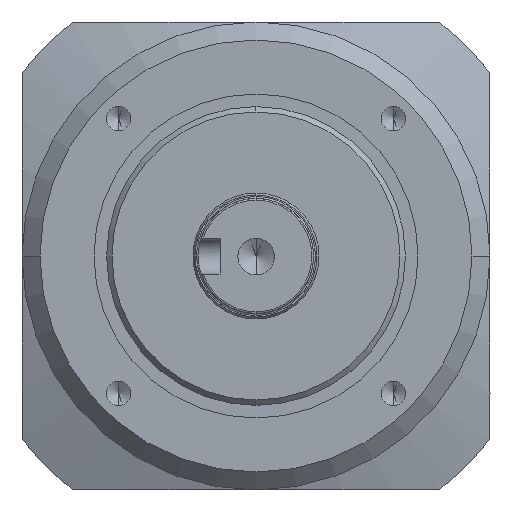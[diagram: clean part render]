
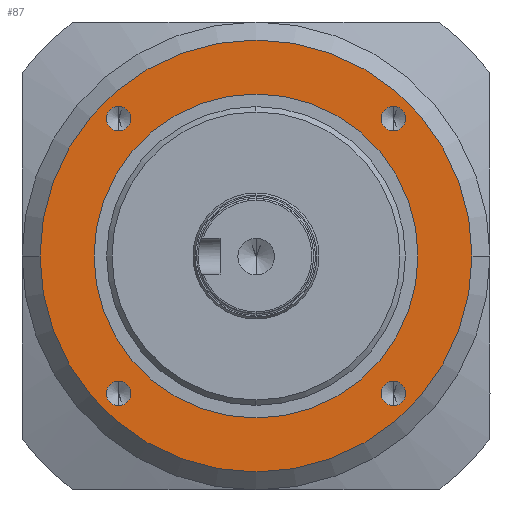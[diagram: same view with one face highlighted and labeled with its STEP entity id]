
A CAD part, left-side view. The second image highlights one B-rep face of the part: STEP entity #87.
In plain terms, the highlighted planar face has unit normal (-1, 0, 0).
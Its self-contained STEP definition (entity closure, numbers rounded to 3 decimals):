
#65 = EDGE_CURVE ( 'NONE', #2974, #1340, #2444, .T. ) ;
#87 = ADVANCED_FACE ( 'NONE', ( #2748, #1677, #623, #2103, #1431, #768 ), #204, .F. ) ;
#159 = CIRCLE ( 'NONE', #2063, 60. ) ;
#182 = VERTEX_POINT ( 'NONE', #769 ) ;
#193 = DIRECTION ( 'NONE',  ( 0., 0., 1. ) ) ;
#202 = DIRECTION ( 'NONE',  ( -1., 0., 0. ) ) ;
#204 = PLANE ( 'NONE',  #1830 ) ;
#278 = CARTESIAN_POINT ( 'NONE',  ( 44., -38.184, -38.184 ) ) ;
#280 = VERTEX_POINT ( 'NONE', #2111 ) ;
#327 = EDGE_LOOP ( 'NONE', ( #2601, #518 ) ) ;
#336 = CARTESIAN_POINT ( 'NONE',  ( 44., 0., 0. ) ) ;
#343 = EDGE_CURVE ( 'NONE', #2943, #2110, #2744, .T. ) ;
#356 = DIRECTION ( 'NONE',  ( 0., 0., 1. ) ) ;
#374 = CIRCLE ( 'NONE', #2959, 3.4 ) ;
#378 = CIRCLE ( 'NONE', #2246, 60. ) ;
#435 = EDGE_CURVE ( 'NONE', #1610, #1754, #1389, .T. ) ;
#446 = DIRECTION ( 'NONE',  ( -1., 0., 0. ) ) ;
#462 = CIRCLE ( 'NONE', #2449, 45. ) ;
#495 = CIRCLE ( 'NONE', #2487, 3.4 ) ;
#496 = AXIS2_PLACEMENT_3D ( 'NONE', #2889, #202, #3156 ) ;
#506 = VERTEX_POINT ( 'NONE', #2445 ) ;
#518 = ORIENTED_EDGE ( 'NONE', *, *, #1696, .T. ) ;
#523 = DIRECTION ( 'NONE',  ( -1., 0., 0. ) ) ;
#578 = CIRCLE ( 'NONE', #711, 3.4 ) ;
#591 = VERTEX_POINT ( 'NONE', #1493 ) ;
#601 = CARTESIAN_POINT ( 'NONE',  ( 44., -38.184, 38.184 ) ) ;
#623 = FACE_BOUND ( 'NONE', #1605, .T. ) ;
#648 = ORIENTED_EDGE ( 'NONE', *, *, #1250, .F. ) ;
#655 = ORIENTED_EDGE ( 'NONE', *, *, #343, .F. ) ;
#708 = ORIENTED_EDGE ( 'NONE', *, *, #2491, .F. ) ;
#711 = AXIS2_PLACEMENT_3D ( 'NONE', #2511, #2243, #2729 ) ;
#727 = CARTESIAN_POINT ( 'NONE',  ( 44., 0., 0. ) ) ;
#759 = EDGE_CURVE ( 'NONE', #1340, #2974, #2404, .T. ) ;
#768 = FACE_OUTER_BOUND ( 'NONE', #327, .T. ) ;
#769 = CARTESIAN_POINT ( 'NONE',  ( 44., -38.184, 41.584 ) ) ;
#841 = DIRECTION ( 'NONE',  ( -1., 0., 0. ) ) ;
#863 = DIRECTION ( 'NONE',  ( -1., 0., 0. ) ) ;
#923 = EDGE_LOOP ( 'NONE', ( #2833, #2447 ) ) ;
#958 = CARTESIAN_POINT ( 'NONE',  ( 44., 0., -45. ) ) ;
#1058 = CARTESIAN_POINT ( 'NONE',  ( 44., 38.184, 34.784 ) ) ;
#1096 = DIRECTION ( 'NONE',  ( 0., 0., 1. ) ) ;
#1117 = ORIENTED_EDGE ( 'NONE', *, *, #65, .F. ) ;
#1140 = AXIS2_PLACEMENT_3D ( 'NONE', #1638, #446, #1652 ) ;
#1230 = CARTESIAN_POINT ( 'NONE',  ( 44., 45., 0. ) ) ;
#1241 = CARTESIAN_POINT ( 'NONE',  ( 44., -38.184, -41.584 ) ) ;
#1250 = EDGE_CURVE ( 'NONE', #2125, #506, #578, .T. ) ;
#1340 = VERTEX_POINT ( 'NONE', #1058 ) ;
#1389 = CIRCLE ( 'NONE', #1140, 3.4 ) ;
#1431 = FACE_BOUND ( 'NONE', #2085, .T. ) ;
#1472 = DIRECTION ( 'NONE',  ( 0., 0., 1. ) ) ;
#1487 = CARTESIAN_POINT ( 'NONE',  ( 44., 0., 0. ) ) ;
#1493 = CARTESIAN_POINT ( 'NONE',  ( 44., 0., 60. ) ) ;
#1502 = DIRECTION ( 'NONE',  ( -1., 0., 0. ) ) ;
#1511 = AXIS2_PLACEMENT_3D ( 'NONE', #2809, #1586, #356 ) ;
#1586 = DIRECTION ( 'NONE',  ( -1., 0., 0. ) ) ;
#1605 = EDGE_LOOP ( 'NONE', ( #2221, #648 ) ) ;
#1610 = VERTEX_POINT ( 'NONE', #2393 ) ;
#1636 = CARTESIAN_POINT ( 'NONE',  ( 44., 38.184, -38.184 ) ) ;
#1638 = CARTESIAN_POINT ( 'NONE',  ( 44., -38.184, -38.184 ) ) ;
#1652 = DIRECTION ( 'NONE',  ( 0., 0., 1. ) ) ;
#1662 = DIRECTION ( 'NONE',  ( -1., 0., 0. ) ) ;
#1670 = AXIS2_PLACEMENT_3D ( 'NONE', #278, #523, #2736 ) ;
#1677 = FACE_BOUND ( 'NONE', #923, .T. ) ;
#1696 = EDGE_CURVE ( 'NONE', #2061, #591, #378, .T. ) ;
#1710 = DIRECTION ( 'NONE',  ( 0., 0., 1. ) ) ;
#1745 = ORIENTED_EDGE ( 'NONE', *, *, #759, .F. ) ;
#1753 = DIRECTION ( 'NONE',  ( 0., 0., -1. ) ) ;
#1754 = VERTEX_POINT ( 'NONE', #1241 ) ;
#1783 = CARTESIAN_POINT ( 'NONE',  ( 44., 0., 45. ) ) ;
#1830 = AXIS2_PLACEMENT_3D ( 'NONE', #1230, #2992, #1753 ) ;
#1849 = EDGE_CURVE ( 'NONE', #1754, #1610, #1964, .T. ) ;
#1964 = CIRCLE ( 'NONE', #1670, 3.4 ) ;
#2006 = CARTESIAN_POINT ( 'NONE',  ( 44., 38.184, 38.184 ) ) ;
#2061 = VERTEX_POINT ( 'NONE', #2657 ) ;
#2063 = AXIS2_PLACEMENT_3D ( 'NONE', #727, #2480, #1710 ) ;
#2080 = EDGE_LOOP ( 'NONE', ( #708, #2957 ) ) ;
#2085 = EDGE_LOOP ( 'NONE', ( #655, #2864 ) ) ;
#2103 = FACE_BOUND ( 'NONE', #2642, .T. ) ;
#2110 = VERTEX_POINT ( 'NONE', #958 ) ;
#2111 = CARTESIAN_POINT ( 'NONE',  ( 44., -38.184, 34.784 ) ) ;
#2125 = VERTEX_POINT ( 'NONE', #2470 ) ;
#2195 = EDGE_CURVE ( 'NONE', #591, #2061, #159, .T. ) ;
#2221 = ORIENTED_EDGE ( 'NONE', *, *, #2488, .F. ) ;
#2243 = DIRECTION ( 'NONE',  ( -1., 0., 0. ) ) ;
#2246 = AXIS2_PLACEMENT_3D ( 'NONE', #1487, #2463, #1472 ) ;
#2280 = CARTESIAN_POINT ( 'NONE',  ( 44., 38.184, 41.584 ) ) ;
#2316 = DIRECTION ( 'NONE',  ( 0., 0., 1. ) ) ;
#2338 = DIRECTION ( 'NONE',  ( 0., 0., 1. ) ) ;
#2358 = EDGE_CURVE ( 'NONE', #2110, #2943, #462, .T. ) ;
#2364 = CARTESIAN_POINT ( 'NONE',  ( 44., -38.184, 38.184 ) ) ;
#2393 = CARTESIAN_POINT ( 'NONE',  ( 44., -38.184, -34.784 ) ) ;
#2404 = CIRCLE ( 'NONE', #496, 3.4 ) ;
#2444 = CIRCLE ( 'NONE', #2830, 3.4 ) ;
#2445 = CARTESIAN_POINT ( 'NONE',  ( 44., 38.184, -34.784 ) ) ;
#2447 = ORIENTED_EDGE ( 'NONE', *, *, #1849, .F. ) ;
#2449 = AXIS2_PLACEMENT_3D ( 'NONE', #336, #2584, #2316 ) ;
#2463 = DIRECTION ( 'NONE',  ( -1., 0., 0. ) ) ;
#2470 = CARTESIAN_POINT ( 'NONE',  ( 44., 38.184, -41.584 ) ) ;
#2480 = DIRECTION ( 'NONE',  ( -1., 0., 0. ) ) ;
#2487 = AXIS2_PLACEMENT_3D ( 'NONE', #1636, #1662, #1096 ) ;
#2488 = EDGE_CURVE ( 'NONE', #506, #2125, #495, .T. ) ;
#2491 = EDGE_CURVE ( 'NONE', #182, #280, #3034, .T. ) ;
#2511 = CARTESIAN_POINT ( 'NONE',  ( 44., 38.184, -38.184 ) ) ;
#2584 = DIRECTION ( 'NONE',  ( -1., 0., 0. ) ) ;
#2601 = ORIENTED_EDGE ( 'NONE', *, *, #2195, .T. ) ;
#2642 = EDGE_LOOP ( 'NONE', ( #1117, #1745 ) ) ;
#2657 = CARTESIAN_POINT ( 'NONE',  ( 44., 0., -60. ) ) ;
#2729 = DIRECTION ( 'NONE',  ( 0., 0., 1. ) ) ;
#2736 = DIRECTION ( 'NONE',  ( 0., 0., 1. ) ) ;
#2743 = DIRECTION ( 'NONE',  ( 0., 0., 1. ) ) ;
#2744 = CIRCLE ( 'NONE', #1511, 45. ) ;
#2748 = FACE_BOUND ( 'NONE', #2080, .T. ) ;
#2809 = CARTESIAN_POINT ( 'NONE',  ( 44., 0., 0. ) ) ;
#2830 = AXIS2_PLACEMENT_3D ( 'NONE', #2006, #1502, #2743 ) ;
#2833 = ORIENTED_EDGE ( 'NONE', *, *, #435, .F. ) ;
#2864 = ORIENTED_EDGE ( 'NONE', *, *, #2358, .F. ) ;
#2889 = CARTESIAN_POINT ( 'NONE',  ( 44., 38.184, 38.184 ) ) ;
#2943 = VERTEX_POINT ( 'NONE', #1783 ) ;
#2957 = ORIENTED_EDGE ( 'NONE', *, *, #3042, .F. ) ;
#2959 = AXIS2_PLACEMENT_3D ( 'NONE', #601, #841, #2338 ) ;
#2974 = VERTEX_POINT ( 'NONE', #2280 ) ;
#2975 = AXIS2_PLACEMENT_3D ( 'NONE', #2364, #863, #193 ) ;
#2992 = DIRECTION ( 'NONE',  ( 1., 0., 0. ) ) ;
#3034 = CIRCLE ( 'NONE', #2975, 3.4 ) ;
#3042 = EDGE_CURVE ( 'NONE', #280, #182, #374, .T. ) ;
#3156 = DIRECTION ( 'NONE',  ( 0., 0., 1. ) ) ;
